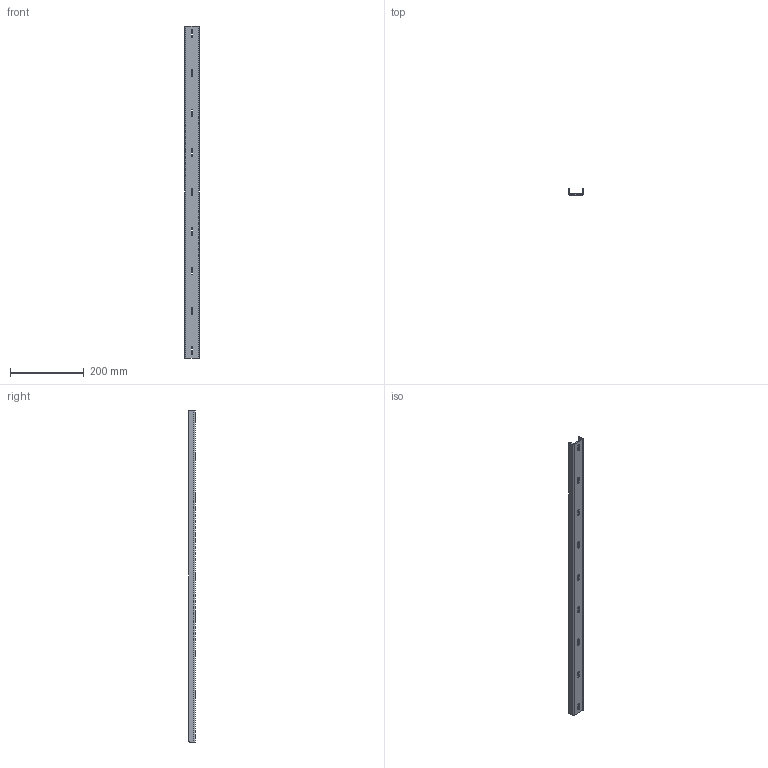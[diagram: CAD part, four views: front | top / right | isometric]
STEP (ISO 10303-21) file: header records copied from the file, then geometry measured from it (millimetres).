
FILE_DESCRIPTION (( 'STEP AP214' ), '1' );
FILE_NAME ('E441900.STEP', '2022-05-20T09:22:49', ( '' ), ( '' ), 'SwSTEP 2.0', 'SolidWorks 2019', '' );
FILE_SCHEMA (( 'AUTOMOTIVE_DESIGN' ));
Length unit declared in the file: millimetre
Products named in the file (1): E441900
Bounding box: 40 x 17 x 900 mm (x, y, z)
Volume: 176390.2 mm3; surface area: 124703.5 mm2
Topology: 1 solids, 1 shells, 106 faces, 300 edges, 200 vertices
Faces by surface type: plane 70, cylinder 32, bspline 4
Entity records: 3564 total; most frequent: CARTESIAN_POINT 707, ORIENTED_EDGE 600, DIRECTION 562, EDGE_CURVE 300, VECTOR 228, LINE 228, VERTEX_POINT 200, AXIS2_PLACEMENT_3D 167
